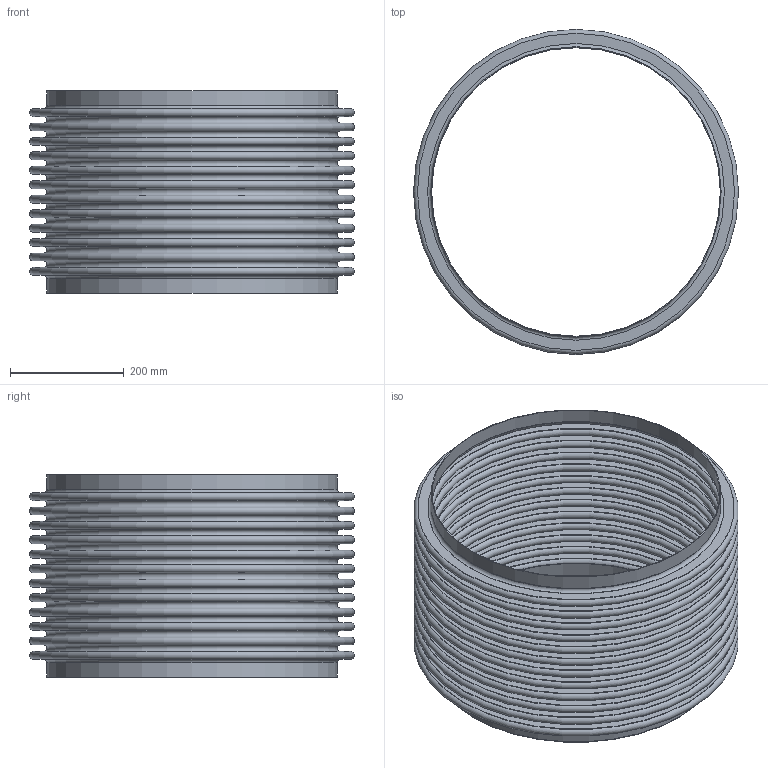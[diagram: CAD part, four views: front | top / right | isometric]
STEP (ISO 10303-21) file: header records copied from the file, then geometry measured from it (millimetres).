
FILE_DESCRIPTION(/* description */ (''),/* implementation_level */ '2;1');
FILE_NAME(/* name */ 'US-20-12-85L.stp',/* time_stamp */ '2026-07-21T11:17:48-05:00',/* author */ ('linda'),/* organization */ (''),/* preprocessor_version */ 'ST-DEVELOPER v20.1',/* originating_system */ 'Autodesk Inventor 2026',/* authorisation */ '');
FILE_SCHEMA (('AUTOMOTIVE_DESIGN { 1 0 10303 214 3 1 1 }'));
Length unit declared in the file: inch
Products named in the file (1): Part3
Bounding box: 571.5 x 571.5 x 355.6 mm (x, y, z)
Volume: 1973599.9 mm3; surface area: 3249235.3 mm2
Topology: 3 solids, 3 shells, 108 faces, 162 edges, 109 vertices
Faces by surface type: plane 54, torus 50, cylinder 4
Full cylindrical faces by diameter (mm): 508 x2, 510.438 x2
Entity records: 2667 total; most frequent: DIRECTION 538, CARTESIAN_POINT 380, ORIENTED_EDGE 324, AXIS2_PLACEMENT_3D 267, EDGE_LOOP 162, EDGE_CURVE 162, CIRCLE 158, STYLED_ITEM 111
